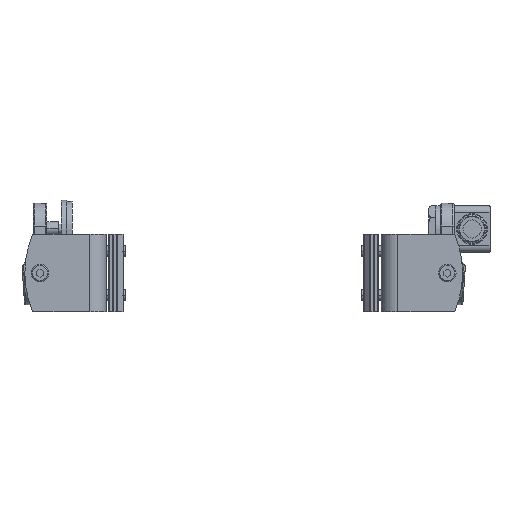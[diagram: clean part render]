
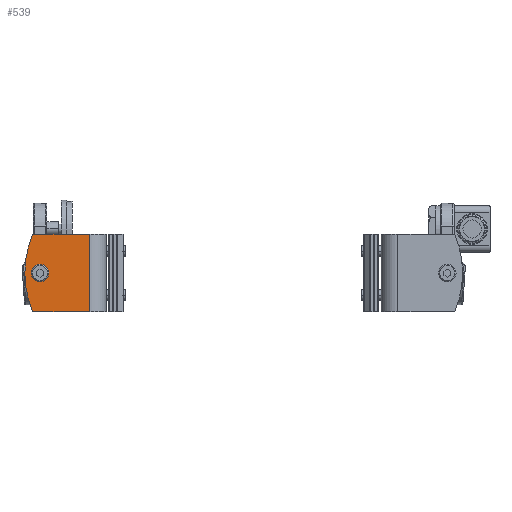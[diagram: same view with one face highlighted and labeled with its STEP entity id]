
A CAD part, front view. The second image highlights one B-rep face of the part: STEP entity #539.
In plain terms, the highlighted planar face has unit normal (0, -1, 0).
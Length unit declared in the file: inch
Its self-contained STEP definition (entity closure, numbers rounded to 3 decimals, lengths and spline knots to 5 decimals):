
#130=DIRECTION('',(1.,0.,0.));
#131=VECTOR('',#130,1.29089);
#132=CARTESIAN_POINT('',(0.376,0.,-1.75));
#133=LINE('',#132,#131);
#166=CARTESIAN_POINT('',(-0.406,0.,-0.875));
#167=DIRECTION('',(0.,1.,0.));
#168=DIRECTION('',(0.921,0.,0.389));
#169=AXIS2_PLACEMENT_3D('',#166,#167,#168);
#171=CARTESIAN_POINT('',(-0.406,0.,-0.875));
#172=DIRECTION('',(0.,1.,0.));
#173=DIRECTION('',(1.,0.,0.));
#174=AXIS2_PLACEMENT_3D('',#171,#172,#173);
#176=DIRECTION('',(0.,0.,-1.));
#177=VECTOR('',#176,1.75);
#178=CARTESIAN_POINT('',(0.376,0.,0.));
#179=LINE('',#178,#177);
#180=CARTESIAN_POINT('',(1.499,0.,-0.875));
#181=DIRECTION('',(0.,1.,0.));
#182=DIRECTION('',(-1.,0.,0.));
#183=AXIS2_PLACEMENT_3D('',#180,#181,#182);
#185=CARTESIAN_POINT('',(1.499,0.,-0.875));
#186=DIRECTION('',(0.,1.,0.));
#187=DIRECTION('',(1.,0.,0.));
#188=AXIS2_PLACEMENT_3D('',#185,#186,#187);
#194=DIRECTION('',(1.,0.,0.));
#195=VECTOR('',#194,1.29089);
#196=CARTESIAN_POINT('',(0.376,0.,0.));
#197=LINE('',#196,#195);
#235=CARTESIAN_POINT('',(0.376,0.,0.));
#237=VERTEX_POINT('',#235);
#239=CARTESIAN_POINT('',(0.376,0.,-1.75));
#241=VERTEX_POINT('',#239);
#282=CARTESIAN_POINT('',(1.3585,0.,-0.875));
#283=CARTESIAN_POINT('',(1.6395,0.,-0.875));
#284=VERTEX_POINT('',#282);
#285=VERTEX_POINT('',#283);
#292=CARTESIAN_POINT('',(1.66689,0.,0.));
#293=CARTESIAN_POINT('',(1.844,0.,-0.875));
#294=VERTEX_POINT('',#292);
#295=VERTEX_POINT('',#293);
#296=CARTESIAN_POINT('',(1.66689,0.,-1.75));
#297=VERTEX_POINT('',#296);
#520=CARTESIAN_POINT('',(0.376,0.,0.));
#521=DIRECTION('',(0.,-1.,0.));
#522=DIRECTION('',(1.,0.,0.));
#523=AXIS2_PLACEMENT_3D('',#520,#521,#522);
#524=PLANE('',#523);
#525=ORIENTED_EDGE('',*,*,#513,.T.);
#526=ORIENTED_EDGE('',*,*,#477,.T.);
#527=ORIENTED_EDGE('',*,*,#464,.F.);
#528=ORIENTED_EDGE('',*,*,#305,.F.);
#530=ORIENTED_EDGE('',*,*,#529,.T.);
#531=EDGE_LOOP('',(#525,#526,#527,#528,#530));
#532=FACE_OUTER_BOUND('',#531,.F.);
#534=ORIENTED_EDGE('',*,*,#533,.F.);
#536=ORIENTED_EDGE('',*,*,#535,.F.);
#537=EDGE_LOOP('',(#534,#536));
#538=FACE_BOUND('',#537,.F.);
#170=CIRCLE('',#169,2.25);
#175=CIRCLE('',#174,2.25);
#184=CIRCLE('',#183,0.1405);
#189=CIRCLE('',#188,0.1405);
#305=EDGE_CURVE('',#237,#241,#179,.T.);
#464=EDGE_CURVE('',#241,#297,#133,.T.);
#477=EDGE_CURVE('',#295,#297,#175,.T.);
#513=EDGE_CURVE('',#294,#295,#170,.T.);
#529=EDGE_CURVE('',#237,#294,#197,.T.);
#533=EDGE_CURVE('',#284,#285,#184,.T.);
#535=EDGE_CURVE('',#285,#284,#189,.T.);
#539=ADVANCED_FACE('',(#532,#538),#524,.T.);
